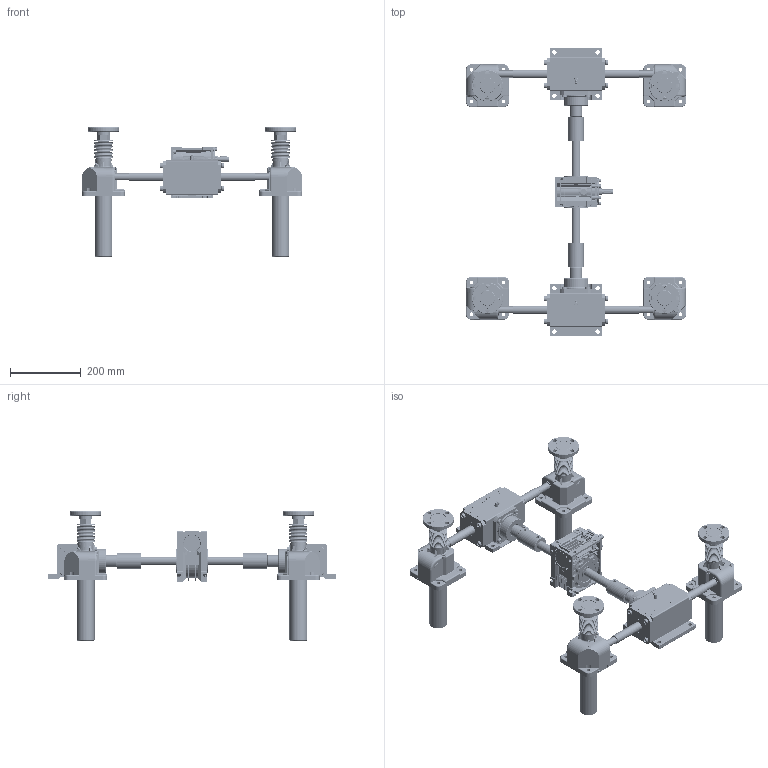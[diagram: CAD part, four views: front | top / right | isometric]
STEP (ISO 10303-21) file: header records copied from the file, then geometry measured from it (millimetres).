
FILE_DESCRIPTION(('STEP AP203'),'1');
FILE_NAME('SPMH900FCJ-600x500-250-150ST_CAP-050.stp','2016-08-18T05:23:34',(' '),(' '),'Spatial InterOp 3D',' ',' ');
FILE_SCHEMA(('CONFIG_CONTROL_DESIGN'));
Length unit declared in the file: millimetre
Products named in the file (209): SPMH900FCJ-600x500-250-150ST_CAP-050; Rack Gear(SP-900FC); Flange.1-Part; Flange.1; Joint.1; Nut.1; Flange.2-Part; Flange.2; Joint.2; Nut.2; Flange.3-Part; Flange.3; Joint.3; Nut.3; Flange.4-Part; Flange.4; Joint.4; Nut.4; Bellow(SP-900); Body.1-Part; Nipple; Bolt; Hole Cover(SP-900); Gear Box.1(Upper); Body_stand by; Gear Box.1(Lower); RJ05-4SCJ-610X600-100ST_CAP; LABEL-B.1; SUNIL __; 파트1; Body.2-Part; Gear Box.2(Upper); Gear Box.2(Lower); Body.3-Part; Gear Box.3(Upper); Gear Box.3(Lower); Body.4-Part; Gear Box.4(Upper); Gear Box.4(Lower); Cap.1-Part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
Assembly tree (212 placements, depth 6):
  SPMH900FCJ-600x500-250-150ST_CAP-050
    Rack Gear(SP-900FC)  x4
    Flange.1-Part
      Flange.1
      Joint.1
      Nut.1
    Flange.2-Part
      Flange.2
      Joint.2
      Nut.2
    Flange.3-Part
      Flange.3
      Joint.3
      Nut.3
    Flange.4-Part
      Flange.4
      Joint.4
      Nut.4
    Bellow(SP-900)
    Bellow(SP-900)
    Bellow(SP-900)
    Bellow(SP-900)
    Body.1-Part
      Nipple
      Bolt
      Bolt
      Bolt
      Hole Cover(SP-900)
      Gear Box.1(Upper)
        Body_stand by
        Body_stand by
        Body_stand by
        Body_stand by
      Gear Box.1(Lower)
        Body_stand by
        Body_stand by
        Body_stand by
        Body_stand by
      SUNIL __
        RJ05-4SCJ-610X600-100ST_CAP
          LABEL-B.1
        파트1
    Body.2-Part
      Nipple
      Bolt
      Bolt
      Bolt
      Hole Cover(SP-900)
      Gear Box.2(Upper)
        Body_stand by
        Body_stand by
        Body_stand by
        Body_stand by
      Gear Box.2(Lower)
        Body_stand by
        Body_stand by
        Body_stand by
        Body_stand by
      SUNIL __
        RJ05-4SCJ-610X600-100ST_CAP
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Bounding box: 620.6 x 812.5 x 365 mm (x, y, z)
Volume: 5324837.3 mm3; surface area: 2165775.1 mm2
Topology: 169 solids, 3256 shells, 17963 faces, 57933 edges, 43487 vertices
Faces by surface type: plane 13954, cylinder 2685, cone 452, torus 440, bspline 184, sphere 100, revolution 74, extrusion 74
Full cylindrical faces by diameter (mm): 2.5 x8, 3.113 x4, 3.775 x3, 4.8 x2, 4.917 x1, 5.55 x4, 6 x6, 6.4 x1, 6.6 x4, 6.647 x8, 8 x64, 8.8 x8, 9.5 x24, 9.886 x2, 10 x8, 12 x24, 14 x13, 15 x24, 16 x1, 20 x5, 22.2 x4, 24.2 x8, 25 x15, 26 x4, 27 x4, 28 x1, 30 x62, 34 x1, 35 x2, 37 x6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
Entity records: 640102 total; most frequent: CARTESIAN_POINT 166777, DIRECTION 90356, ORIENTED_EDGE 90223, EDGE_CURVE 53030, VECTOR 42484, LINE 42410, VERTEX_POINT 40917, AXIS2_PLACEMENT_3D 23899
